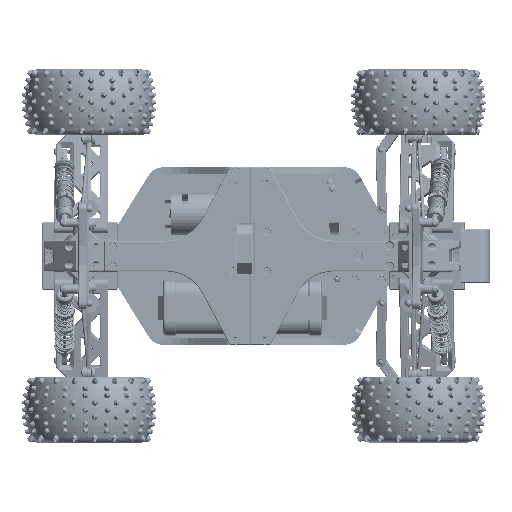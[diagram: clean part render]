
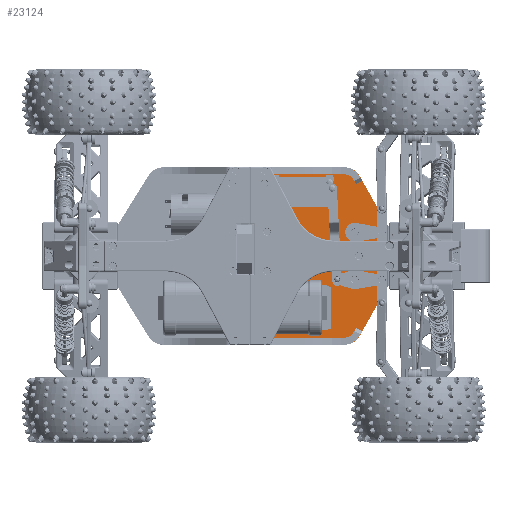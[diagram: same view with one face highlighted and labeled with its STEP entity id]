
A CAD part, top view. The second image highlights one B-rep face of the part: STEP entity #23124.
In plain terms, the highlighted planar face has unit normal (0, 0, 1).
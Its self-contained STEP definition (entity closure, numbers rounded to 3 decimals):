
#23124=ADVANCED_FACE('',(#49052,#49053,#49054,#49055,#49056,#49057,#49058,#49059,#49060,#49061,#49062,#49063,#49064),#49065,.F.);
#49052=FACE_BOUND('',#103147,.T.);
#49053=FACE_BOUND('',#103148,.T.);
#49054=FACE_BOUND('',#103149,.T.);
#49055=FACE_BOUND('',#103150,.T.);
#49056=FACE_BOUND('',#103151,.T.);
#49057=FACE_BOUND('',#103152,.T.);
#49058=FACE_BOUND('',#103153,.T.);
#49059=FACE_BOUND('',#103154,.T.);
#49060=FACE_BOUND('',#103155,.T.);
#49061=FACE_BOUND('',#103156,.T.);
#49062=FACE_BOUND('',#103157,.T.);
#49063=FACE_BOUND('',#103158,.T.);
#49064=FACE_OUTER_BOUND('',#103159,.T.);
#49065=PLANE('',#103160);
#103147=EDGE_LOOP('',(#181365));
#103148=EDGE_LOOP('',(#181366));
#103149=EDGE_LOOP('',(#181367));
#103150=EDGE_LOOP('',(#181368));
#103151=EDGE_LOOP('',(#181369));
#103152=EDGE_LOOP('',(#181370));
#103153=EDGE_LOOP('',(#181371));
#103154=EDGE_LOOP('',(#181372));
#103155=EDGE_LOOP('',(#181373));
#103156=EDGE_LOOP('',(#181374));
#103157=EDGE_LOOP('',(#181375));
#103158=EDGE_LOOP('',(#181376));
#103159=EDGE_LOOP('',(#181377,#181378,#181379,#181380,#181381,#181382,#181383,#181384,#181385,#181386));
#103160=AXIS2_PLACEMENT_3D('',#181387,#181388,#181389);
#181365=ORIENTED_EDGE('',*,*,#244048,.F.);
#181366=ORIENTED_EDGE('',*,*,#246969,.F.);
#181367=ORIENTED_EDGE('',*,*,#246970,.F.);
#181368=ORIENTED_EDGE('',*,*,#237772,.F.);
#181369=ORIENTED_EDGE('',*,*,#246971,.F.);
#181370=ORIENTED_EDGE('',*,*,#225142,.T.);
#181371=ORIENTED_EDGE('',*,*,#245716,.T.);
#181372=ORIENTED_EDGE('',*,*,#224879,.T.);
#181373=ORIENTED_EDGE('',*,*,#246972,.F.);
#181374=ORIENTED_EDGE('',*,*,#228193,.F.);
#181375=ORIENTED_EDGE('',*,*,#246973,.F.);
#181376=ORIENTED_EDGE('',*,*,#235086,.F.);
#181377=ORIENTED_EDGE('',*,*,#246974,.T.);
#181378=ORIENTED_EDGE('',*,*,#246975,.T.);
#181379=ORIENTED_EDGE('',*,*,#233233,.T.);
#181380=ORIENTED_EDGE('',*,*,#246976,.T.);
#181381=ORIENTED_EDGE('',*,*,#241125,.T.);
#181382=ORIENTED_EDGE('',*,*,#246977,.T.);
#181383=ORIENTED_EDGE('',*,*,#246978,.T.);
#181384=ORIENTED_EDGE('',*,*,#243193,.T.);
#181385=ORIENTED_EDGE('',*,*,#236541,.T.);
#181386=ORIENTED_EDGE('',*,*,#246979,.T.);
#181387=CARTESIAN_POINT('',(0.0,0.0,2.0));
#181388=DIRECTION('',(0.0,0.0,-1.0));
#181389=DIRECTION('',(-1.0,0.0,0.0));
#224879=EDGE_CURVE('',#261047,#261047,#261048,.T.);
#225142=EDGE_CURVE('',#261487,#261487,#261488,.T.);
#228193=EDGE_CURVE('',#266671,#266671,#266672,.F.);
#233233=EDGE_CURVE('',#274692,#274693,#274694,.T.);
#235086=EDGE_CURVE('',#277645,#277645,#277646,.F.);
#236541=EDGE_CURVE('',#279822,#279823,#279824,.T.);
#237772=EDGE_CURVE('',#281671,#281671,#281672,.F.);
#241125=EDGE_CURVE('',#286842,#286840,#286843,.T.);
#243193=EDGE_CURVE('',#289778,#279822,#289779,.T.);
#244048=EDGE_CURVE('',#290891,#290891,#290892,.F.);
#245716=EDGE_CURVE('',#293053,#293053,#293054,.T.);
#246969=EDGE_CURVE('',#294662,#294662,#294663,.F.);
#246970=EDGE_CURVE('',#294664,#294664,#294665,.F.);
#246971=EDGE_CURVE('',#294666,#294666,#294667,.F.);
#246972=EDGE_CURVE('',#294668,#294668,#294669,.F.);
#246973=EDGE_CURVE('',#294670,#294670,#294671,.F.);
#246974=EDGE_CURVE('',#294672,#294673,#294674,.T.);
#246975=EDGE_CURVE('',#294673,#274692,#294675,.T.);
#246976=EDGE_CURVE('',#274693,#286842,#294676,.F.);
#246977=EDGE_CURVE('',#286840,#294677,#294678,.T.);
#246978=EDGE_CURVE('',#294677,#289778,#294679,.T.);
#246979=EDGE_CURVE('',#279823,#294672,#294680,.F.);
#261047=VERTEX_POINT('',#311056);
#261048=CIRCLE('',#311057,1.75);
#261487=VERTEX_POINT('',#312055);
#261488=CIRCLE('',#312056,1.75);
#266671=VERTEX_POINT('',#322516);
#266672=CIRCLE('',#322517,1.75);
#274692=VERTEX_POINT('',#341179);
#274693=VERTEX_POINT('',#341180);
#274694=LINE('',#341181,#341182);
#277645=VERTEX_POINT('',#347238);
#277646=CIRCLE('',#347239,1.75);
#279822=VERTEX_POINT('',#351831);
#279823=VERTEX_POINT('',#351832);
#279824=LINE('',#351833,#351834);
#281671=VERTEX_POINT('',#358590);
#281672=CIRCLE('',#358591,1.75);
#286840=VERTEX_POINT('',#370422);
#286842=VERTEX_POINT('',#370425);
#286843=LINE('',#370426,#370427);
#289778=VERTEX_POINT('',#375972);
#289779=CIRCLE('',#375973,10.0);
#290891=VERTEX_POINT('',#378298);
#290892=CIRCLE('',#378299,1.75);
#293053=VERTEX_POINT('',#383177);
#293054=CIRCLE('',#383178,1.75);
#294662=VERTEX_POINT('',#386560);
#294663=CIRCLE('',#386561,1.75);
#294664=VERTEX_POINT('',#386562);
#294665=CIRCLE('',#386563,1.75);
#294666=VERTEX_POINT('',#386564);
#294667=CIRCLE('',#386565,1.75);
#294668=VERTEX_POINT('',#386566);
#294669=CIRCLE('',#386567,1.75);
#294670=VERTEX_POINT('',#386568);
#294671=CIRCLE('',#386569,1.75);
#294672=VERTEX_POINT('',#386570);
#294673=VERTEX_POINT('',#386571);
#294674=LINE('',#386572,#386573);
#294675=LINE('',#386574,#386575);
#294676=CIRCLE('',#386576,15.0);
#294677=VERTEX_POINT('',#386577);
#294678=CIRCLE('',#386578,10.0);
#294679=LINE('',#386579,#386580);
#294680=CIRCLE('',#386581,15.0);
#311056=CARTESIAN_POINT('',(13.131,22.1,2.0));
#311057=AXIS2_PLACEMENT_3D('',#417139,#417140,#417141);
#312055=CARTESIAN_POINT('',(7.171,61.1,2.0));
#312056=AXIS2_PLACEMENT_3D('',#417398,#417399,#417400);
#322516=CARTESIAN_POINT('',(28.73,72.0,2.));
#322517=AXIS2_PLACEMENT_3D('',#420332,#420333,#420334);
#341179=CARTESIAN_POINT('',(-0.394,-75.0,2.0));
#341180=CARTESIAN_POINT('',(76.223,-75.0,2.0));
#341181=CARTESIAN_POINT('',(0.,-75.0,2.0));
#341182=VECTOR('',#425172,1.0);
#347238=CARTESIAN_POINT('',(28.73,-72.0,2.));
#347239=AXIS2_PLACEMENT_3D('',#426853,#426854,#426855);
#351831=CARTESIAN_POINT('',(111.634,27.601,2.0));
#351832=CARTESIAN_POINT('',(89.3,67.348,2.0));
#351833=CARTESIAN_POINT('',(99.75,48.75,2.0));
#351834=VECTOR('',#428319,1.0);
#358590=CARTESIAN_POINT('',(83.184,20.0,2.));
#358591=AXIS2_PLACEMENT_3D('',#429475,#429476,#429477);
#370422=CARTESIAN_POINT('',(111.634,-27.601,2.0));
#370425=CARTESIAN_POINT('',(89.3,-67.348,2.0));
#370426=CARTESIAN_POINT('',(99.75,-48.75,2.0));
#370427=VECTOR('',#432561,1.0);
#375972=CARTESIAN_POINT('',(113.378,25.332,2.0));
#375973=AXIS2_PLACEMENT_3D('',#434421,#434422,#434423);
#378298=CARTESIAN_POINT('',(16.356,64.25,2.));
#378299=AXIS2_PLACEMENT_3D('',#435163,#435164,#435165);
#383177=CARTESIAN_POINT('',(13.131,-14.84,2.0));
#383178=AXIS2_PLACEMENT_3D('',#436644,#436645,#436646);
#386560=CARTESIAN_POINT('',(62.335,64.25,2.));
#386561=AXIS2_PLACEMENT_3D('',#437670,#437671,#437672);
#386562=CARTESIAN_POINT('',(39.306,44.75,2.));
#386563=AXIS2_PLACEMENT_3D('',#437673,#437674,#437675);
#386564=CARTESIAN_POINT('',(83.184,-20.0,2.));
#386565=AXIS2_PLACEMENT_3D('',#437676,#437677,#437678);
#386566=CARTESIAN_POINT('',(84.866,66.0,2.));
#386567=AXIS2_PLACEMENT_3D('',#437679,#437680,#437681);
#386568=CARTESIAN_POINT('',(84.866,-66.0,2.));
#386569=AXIS2_PLACEMENT_3D('',#437682,#437683,#437684);
#386570=CARTESIAN_POINT('',(76.223,75.0,2.0));
#386571=CARTESIAN_POINT('',(-0.394,75.0,2.0));
#386572=CARTESIAN_POINT('',(0.,75.0,2.0));
#386573=VECTOR('',#437685,1.0);
#386574=CARTESIAN_POINT('',(-0.394,0.,2.0));
#386575=VECTOR('',#437686,1.0);
#386576=AXIS2_PLACEMENT_3D('',#437687,#437688,#437689);
#386577=CARTESIAN_POINT('',(113.378,-25.332,2.0));
#386578=AXIS2_PLACEMENT_3D('',#437690,#437691,#437692);
#386579=CARTESIAN_POINT('',(113.378,22.5,2.0));
#386580=VECTOR('',#437693,1.0);
#386581=AXIS2_PLACEMENT_3D('',#437694,#437695,#437696);
#417139=CARTESIAN_POINT('',(14.881,22.1,2.0));
#417140=DIRECTION('',(0.0,0.0,-1.0));
#417141=DIRECTION('',(-1.0,0.0,0.0));
#417398=CARTESIAN_POINT('',(8.921,61.1,2.0));
#417399=DIRECTION('',(0.0,0.0,-1.0));
#417400=DIRECTION('',(-1.0,0.0,0.0));
#420332=CARTESIAN_POINT('',(30.48,72.0,2.));
#420333=DIRECTION('',(0.0,0.0,-1.0));
#420334=DIRECTION('',(-1.0,0.0,0.0));
#425172=DIRECTION('',(1.0,0.,0.0));
#426853=CARTESIAN_POINT('',(30.48,-72.0,2.));
#426854=DIRECTION('',(0.0,0.0,-1.0));
#426855=DIRECTION('',(-1.0,0.0,0.0));
#428319=DIRECTION('',(-0.49,0.872,0.0));
#429475=CARTESIAN_POINT('',(84.934,20.0,2.));
#429476=DIRECTION('',(0.0,0.0,-1.0));
#429477=DIRECTION('',(-1.0,0.0,0.0));
#432561=DIRECTION('',(0.49,0.872,0.0));
#434421=CARTESIAN_POINT('',(120.352,32.5,2.0));
#434422=DIRECTION('',(0.0,0.0,-1.0));
#434423=DIRECTION('',(-1.0,0.0,0.0));
#435163=CARTESIAN_POINT('',(18.106,64.25,2.));
#435164=DIRECTION('',(0.0,0.0,-1.0));
#435165=DIRECTION('',(-1.0,0.0,0.0));
#436644=CARTESIAN_POINT('',(14.881,-14.84,2.0));
#436645=DIRECTION('',(0.0,0.0,-1.0));
#436646=DIRECTION('',(-1.0,0.0,0.0));
#437670=CARTESIAN_POINT('',(64.085,64.25,2.));
#437671=DIRECTION('',(0.0,0.0,-1.0));
#437672=DIRECTION('',(-1.0,0.0,0.0));
#437673=CARTESIAN_POINT('',(41.056,44.75,2.));
#437674=DIRECTION('',(0.0,0.0,-1.0));
#437675=DIRECTION('',(-1.0,0.0,0.0));
#437676=CARTESIAN_POINT('',(84.934,-20.0,2.));
#437677=DIRECTION('',(0.0,0.0,-1.0));
#437678=DIRECTION('',(-1.0,0.0,0.0));
#437679=CARTESIAN_POINT('',(86.616,66.0,2.));
#437680=DIRECTION('',(0.0,0.0,-1.0));
#437681=DIRECTION('',(-1.0,0.0,0.0));
#437682=CARTESIAN_POINT('',(86.616,-66.0,2.));
#437683=DIRECTION('',(0.0,0.0,-1.0));
#437684=DIRECTION('',(-1.0,0.0,0.0));
#437685=DIRECTION('',(-1.0,0.0,0.0));
#437686=DIRECTION('',(0.,-1.0,0.0));
#437687=CARTESIAN_POINT('',(76.223,-60.0,2.0));
#437688=DIRECTION('',(0.0,0.0,-1.0));
#437689=DIRECTION('',(-1.0,0.0,0.0));
#437690=CARTESIAN_POINT('',(120.352,-32.5,2.0));
#437691=DIRECTION('',(0.0,0.0,-1.0));
#437692=DIRECTION('',(-1.0,0.0,0.0));
#437693=DIRECTION('',(0.0,1.0,0.0));
#437694=CARTESIAN_POINT('',(76.223,60.0,2.0));
#437695=DIRECTION('',(0.0,0.0,-1.0));
#437696=DIRECTION('',(-1.0,0.0,0.0));
